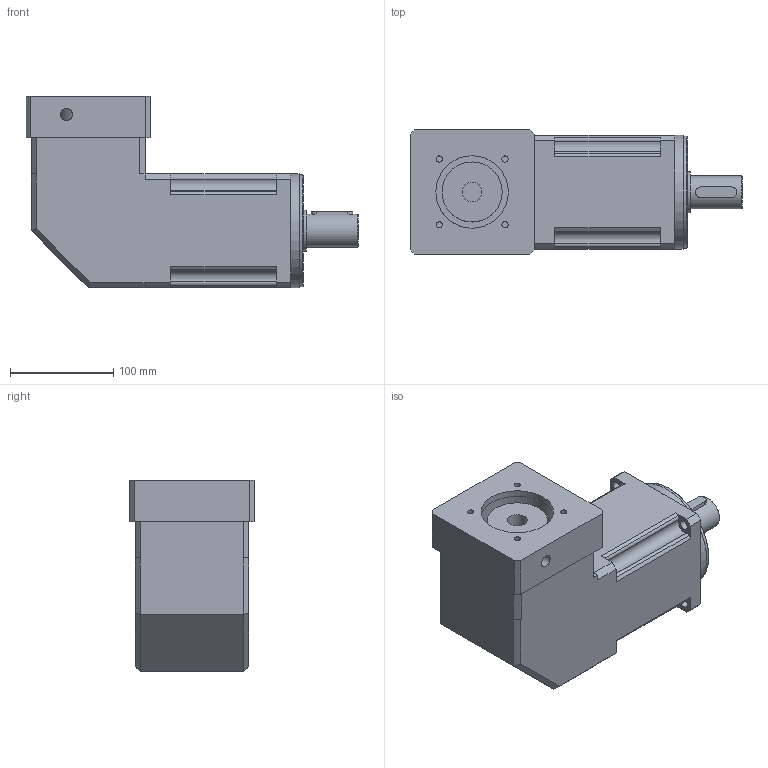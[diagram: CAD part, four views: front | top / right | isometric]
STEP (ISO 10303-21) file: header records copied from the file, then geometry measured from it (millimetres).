
FILE_DESCRIPTION(/* description */ (''),/* implementation_level */ '2;1');
FILE_NAME(/* name */ 'KVX115-2-134.stp',/* time_stamp */ '2019-08-18T19:50:13+08:00',/* author */ (''),/* organization */ (''),/* preprocessor_version */ 'ST-DEVELOPER v16',/* originating_system */ 'SIEMENS PLM Software NX 10.0',/* authorisation */ '');
FILE_SCHEMA (('CONFIG_CONTROL_DESIGN'));
Length unit declared in the file: millimetre
Products named in the file (1): KVX115-2-134
Bounding box: 320.8 x 120 x 185 mm (x, y, z)
Volume: 3822541.6 mm3; surface area: 189260.2 mm2
Topology: 1 solids, 1 shells, 113 faces, 279 edges, 181 vertices
Faces by surface type: cylinder 56, plane 54, cone 2, torus 1
Full cylindrical faces by diameter (mm): 6 x4, 8.5 x1, 9 x4, 11.838 x1, 19 x1, 32 x1, 40 x1, 58 x1, 70 x1, 70.1 x1, 108 x1, 110 x1
Entity records: 3367 total; most frequent: DIRECTION 593, CARTESIAN_POINT 585, ORIENTED_EDGE 508, EDGE_CURVE 254, AXIS2_PLACEMENT_3D 228, VERTEX_POINT 178, EDGE_LOOP 157, LINE 137
